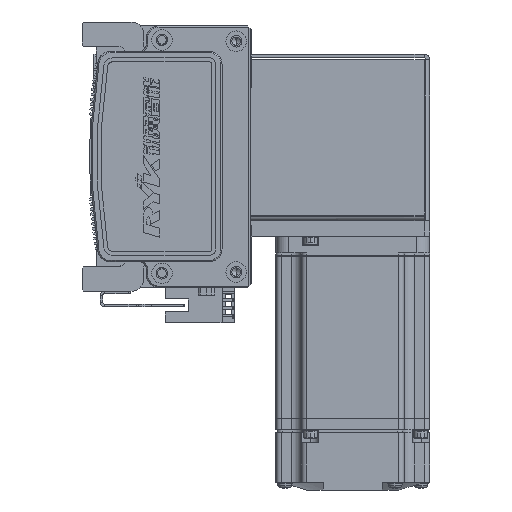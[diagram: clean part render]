
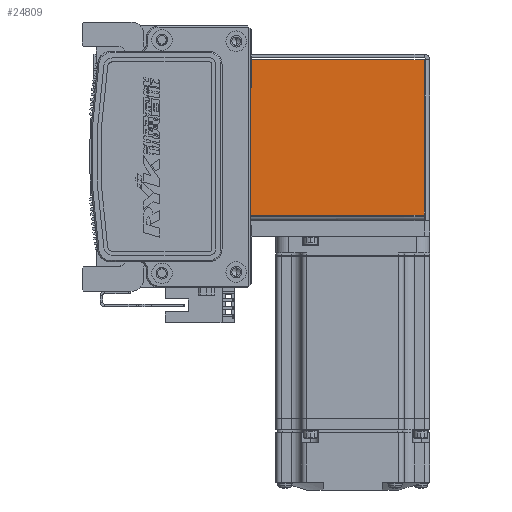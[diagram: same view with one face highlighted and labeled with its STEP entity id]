
A CAD part, left-side view. The second image highlights one B-rep face of the part: STEP entity #24809.
In plain terms, the highlighted planar face has unit normal (-1, 0, 0) as drawn and (0, 0, -1) by its records, which use the part's own axes.
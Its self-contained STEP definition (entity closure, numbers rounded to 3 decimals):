
#451 = VECTOR ( 'NONE', #64282, 1000. ) ;
#803 = CARTESIAN_POINT ( 'NONE',  ( 0., 72.5, -35. ) ) ;
#1741 = PLANE ( 'NONE',  #25092 ) ;
#5481 = CARTESIAN_POINT ( 'NONE',  ( 32.5, 0.737, -35. ) ) ;
#6474 = VERTEX_POINT ( 'NONE', #48972 ) ;
#7551 = ORIENTED_EDGE ( 'NONE', *, *, #27837, .T. ) ;
#7664 = DIRECTION ( 'NONE',  ( 0., -1., 0. ) ) ;
#11221 = ORIENTED_EDGE ( 'NONE', *, *, #65024, .T. ) ;
#18062 = DIRECTION ( 'NONE',  ( 0., 0., 1. ) ) ;
#20552 = EDGE_CURVE ( 'NONE', #6474, #68510, #64313, .T. ) ;
#24809 = ADVANCED_FACE ( 'NONE', ( #46995 ), #1741, .F. ) ;
#24920 = VECTOR ( 'NONE', #26976, 1000. ) ;
#25092 = AXIS2_PLACEMENT_3D ( 'NONE', #67394, #18062, #7664 ) ;
#26635 = LINE ( 'NONE', #5481, #24920 ) ;
#26976 = DIRECTION ( 'NONE',  ( 1., 0., 0. ) ) ;
#27773 = EDGE_CURVE ( 'NONE', #37262, #68510, #26635, .T. ) ;
#27837 = EDGE_CURVE ( 'NONE', #37262, #29774, #40134, .T. ) ;
#29774 = VERTEX_POINT ( 'NONE', #58268 ) ;
#29880 = CARTESIAN_POINT ( 'NONE',  ( -30.293, 0.737, -35. ) ) ;
#32453 = EDGE_LOOP ( 'NONE', ( #66078, #46186, #7551, #11221 ) ) ;
#36129 = VECTOR ( 'NONE', #43061, 1000. ) ;
#37262 = VERTEX_POINT ( 'NONE', #29880 ) ;
#37830 = CARTESIAN_POINT ( 'NONE',  ( -30.293, 0., -35. ) ) ;
#40134 = LINE ( 'NONE', #37830, #451 ) ;
#42365 = CARTESIAN_POINT ( 'NONE',  ( 30.263, 72.5, -35. ) ) ;
#43061 = DIRECTION ( 'NONE',  ( 1., 0., 0. ) ) ;
#46186 = ORIENTED_EDGE ( 'NONE', *, *, #27773, .F. ) ;
#46995 = FACE_OUTER_BOUND ( 'NONE', #32453, .T. ) ;
#48972 = CARTESIAN_POINT ( 'NONE',  ( 30.263, 72.5, -35. ) ) ;
#49576 = LINE ( 'NONE', #803, #36129 ) ;
#54739 = CARTESIAN_POINT ( 'NONE',  ( 30.263, 0.737, -35. ) ) ;
#55831 = VECTOR ( 'NONE', #68638, 1000. ) ;
#58268 = CARTESIAN_POINT ( 'NONE',  ( -30.293, 72.5, -35. ) ) ;
#64282 = DIRECTION ( 'NONE',  ( 0., 1., 0. ) ) ;
#64313 = LINE ( 'NONE', #42365, #55831 ) ;
#65024 = EDGE_CURVE ( 'NONE', #29774, #6474, #49576, .T. ) ;
#66078 = ORIENTED_EDGE ( 'NONE', *, *, #20552, .T. ) ;
#67394 = CARTESIAN_POINT ( 'NONE',  ( 0., 0., -35. ) ) ;
#68510 = VERTEX_POINT ( 'NONE', #54739 ) ;
#68638 = DIRECTION ( 'NONE',  ( 0., -1., 0. ) ) ;
